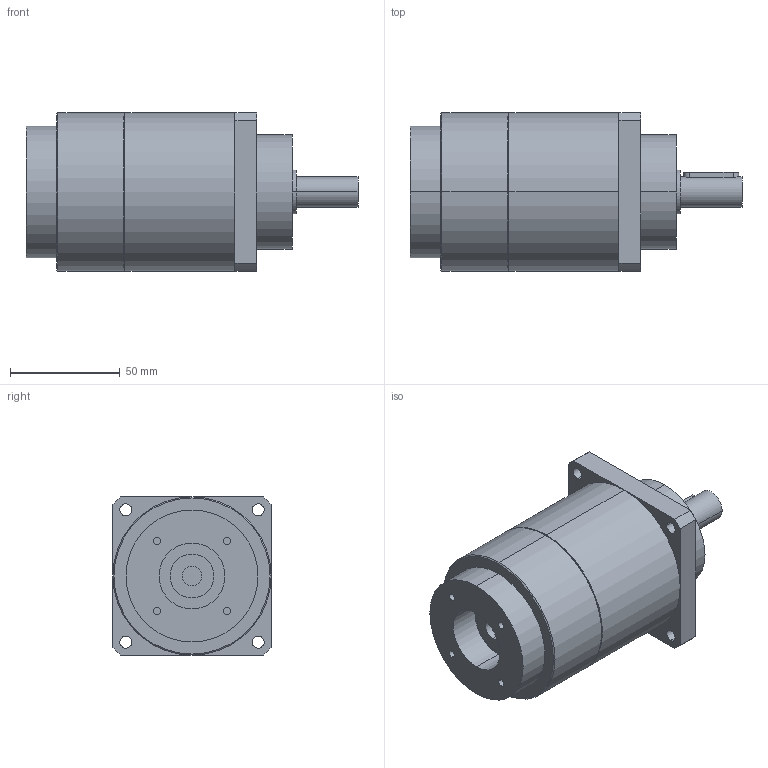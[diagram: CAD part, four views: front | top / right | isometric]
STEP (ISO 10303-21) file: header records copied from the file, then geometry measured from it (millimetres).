
FILE_DESCRIPTION(('CoCreate Modeling STEP Export'),'2;1');
FILE_NAME('GPT75_ig-9-12-16-20-25-28-35-40-50-70-100_14_B5T_9_P16.stp','2014-08-27T13:44:01',(''),(''),'CoCreate Modeling STEP processor for AP214 (Solid Model)','CoCreate Modeling 16.00C 25-Feb-2009 (C) Parametric Technology GmbH','');
FILE_SCHEMA(('AUTOMOTIVE_DESIGN { 1 0 10303 214 1 1 1 1 }'));
Length unit declared in the file: millimetre
Products named in the file (2): GPT75_ig-9-12-16-20-25-28-35-40-50-70-100_14_B5T_9_P16
Assembly tree (1 placements, depth 2):
  GPT75_ig-9-12-16-20-25-28-35-40-50-70-100_14_B5T_9_P16
    GPT75_ig-9-12-16-20-25-28-35-40-50-70-100_14_B5T_9_P16
Bounding box: 151 x 72 x 72 mm (x, y, z)
Volume: 447540.7 mm3; surface area: 42022.3 mm2
Topology: 1 solids, 1 shells, 72 faces, 170 edges, 113 vertices
Faces by surface type: cylinder 42, plane 26, cone 4
Entity records: 2201 total; most frequent: CARTESIAN_POINT 669, ORIENTED_EDGE 340, DIRECTION 268, EDGE_CURVE 170, VERTEX_POINT 113, AXIS2_PLACEMENT_3D 100, EDGE_LOOP 93, FACE_OUTER_BOUND 72
